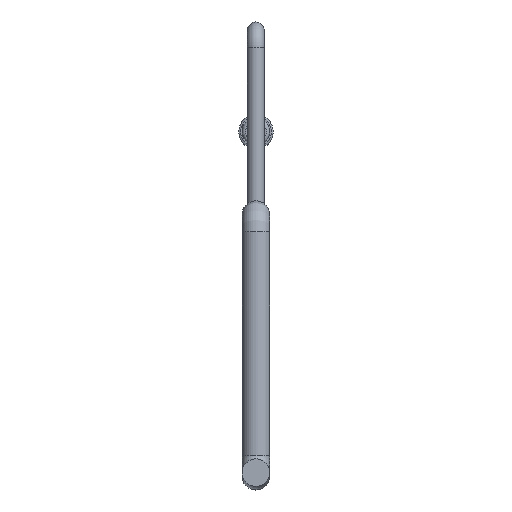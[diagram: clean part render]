
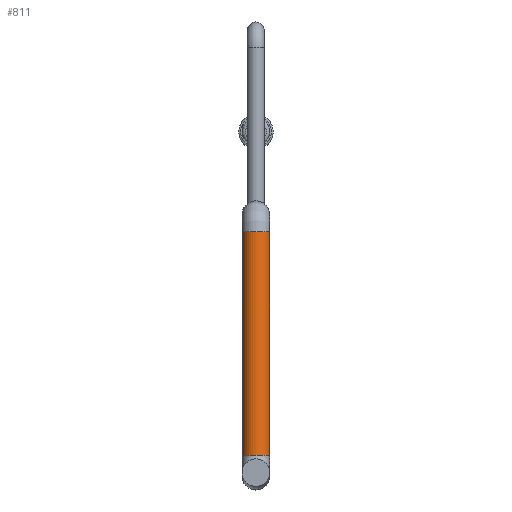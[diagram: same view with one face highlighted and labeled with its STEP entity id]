
A CAD part, top view. The second image highlights one B-rep face of the part: STEP entity #811.
In plain terms, the highlighted cylindrical face has radius 8 mm (diameter 16 mm), a full revolution.
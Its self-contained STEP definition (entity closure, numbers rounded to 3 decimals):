
#811=ADVANCED_FACE('',(#915,#916),#883,.T.);
#883=CYLINDRICAL_SURFACE('',#1558,8.);
#915=FACE_BOUND('',#1030,.T.);
#916=FACE_BOUND('',#1031,.T.);
#1030=EDGE_LOOP('',(#1166));
#1031=EDGE_LOOP('',(#1167));
#1166=ORIENTED_EDGE('',*,*,#1416,.T.);
#1167=ORIENTED_EDGE('',*,*,#1415,.F.);
#1336=VERTEX_POINT('',#1974);
#1337=VERTEX_POINT('',#1977);
#1415=EDGE_CURVE('',#1336,#1336,#1501,.T.);
#1416=EDGE_CURVE('',#1337,#1337,#1502,.T.);
#1501=CIRCLE('',#1555,8.);
#1502=CIRCLE('',#1557,8.);
#1555=AXIS2_PLACEMENT_3D('',#1973,#1691,#1692);
#1557=AXIS2_PLACEMENT_3D('',#1976,#1695,#1696);
#1558=AXIS2_PLACEMENT_3D('',#1978,#1697,#1698);
#1691=DIRECTION('',(0.,-1.,0.));
#1692=DIRECTION('',(0.,0.,-1.));
#1695=DIRECTION('',(0.,-1.,0.));
#1696=DIRECTION('',(0.,0.,-1.));
#1697=DIRECTION('',(0.,-1.,0.));
#1698=DIRECTION('',(0.,0.,-1.));
#1973=CARTESIAN_POINT('',(0.,10.,-25.));
#1974=CARTESIAN_POINT('',(0.,10.,-33.));
#1976=CARTESIAN_POINT('',(0.,140.,-25.));
#1977=CARTESIAN_POINT('',(0.,140.,-33.));
#1978=CARTESIAN_POINT('',(0.,140.,-25.));
